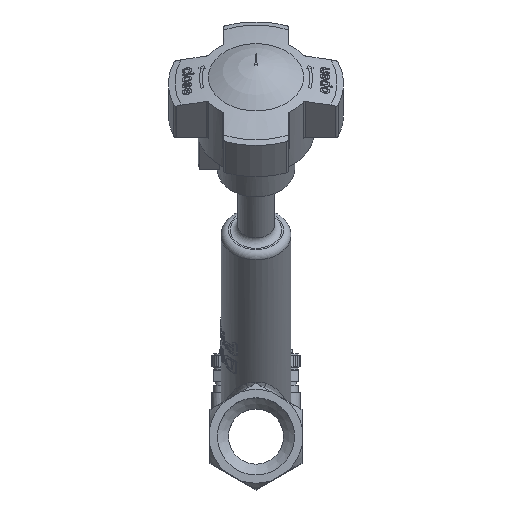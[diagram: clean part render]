
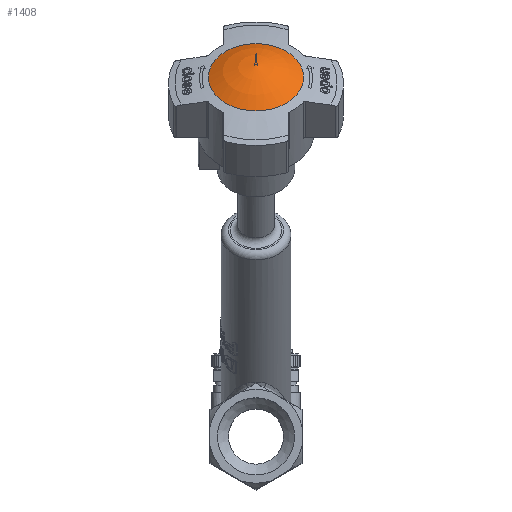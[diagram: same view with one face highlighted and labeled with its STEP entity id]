
A CAD part, top view. The second image highlights one B-rep face of the part: STEP entity #1408.
In plain terms, the highlighted toroidal (fillet/blend) face has major radius 2.334 mm and minor radius 26.945 mm.
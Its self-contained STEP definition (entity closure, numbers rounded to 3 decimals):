
#1408=ADVANCED_FACE('',(#8154),#8156,.F.);
#8154=FACE_BOUND('',#8155,.T.);
#8155=EDGE_LOOP('',(#14245,#14246));
#8156=DEGENERATE_TOROIDAL_SURFACE('',#8157,2.334,26.944,.F.);
#8157=AXIS2_PLACEMENT_3D('',#8158,#8159,#8160);
#8158=CARTESIAN_POINT('',(0.,81.78,68.715));
#8159=DIRECTION('',(0.,-0.707,-0.707));
#8160=DIRECTION('',(0.,0.707,-0.707));
#14245=ORIENTED_EDGE('',*,*,#18176,.T.);
#14246=ORIENTED_EDGE('',*,*,#18175,.T.);
#18175=EDGE_CURVE('',#20362,#20363,#20364,.T.);
#18176=EDGE_CURVE('',#20363,#20362,#20365,.T.);
#20362=VERTEX_POINT('',#27353);
#20363=VERTEX_POINT('',#27354);
#20364=CIRCLE('',#27355,12.937);
#20365=CIRCLE('',#27359,12.937);
#27353=CARTESIAN_POINT('',(0.,88.33,93.56));
#27354=CARTESIAN_POINT('',(0.,106.625,75.265));
#27355=AXIS2_PLACEMENT_3D('',#27356,#27357,#27358);
#27356=CARTESIAN_POINT('',(0.,97.477,84.413));
#27357=DIRECTION('',(0.,0.707,0.707));
#27358=DIRECTION('',(0.,-0.707,0.707));
#27359=AXIS2_PLACEMENT_3D('',#27360,#27361,#27362);
#27360=CARTESIAN_POINT('',(0.,97.477,84.413));
#27361=DIRECTION('',(0.,0.707,0.707));
#27362=DIRECTION('',(0.,0.707,-0.707));
